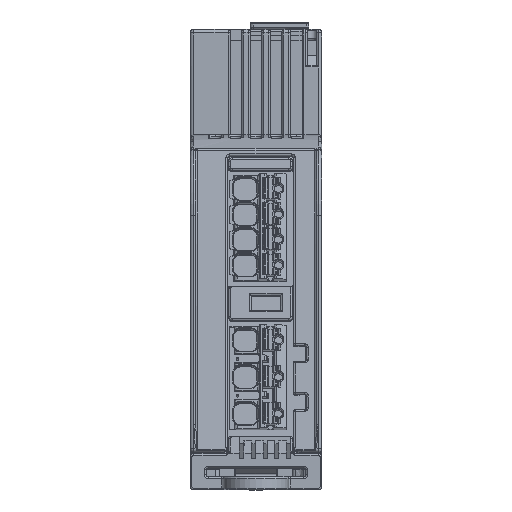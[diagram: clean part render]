
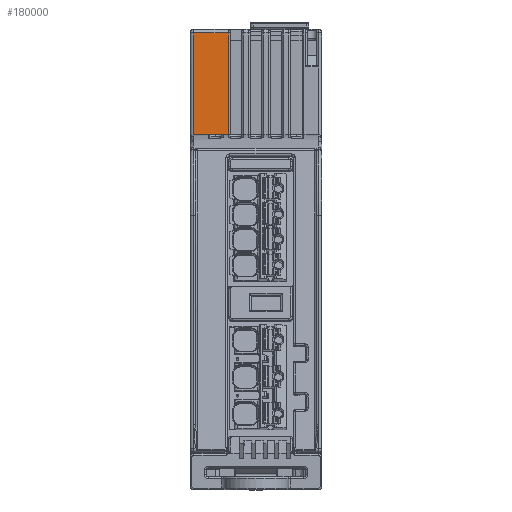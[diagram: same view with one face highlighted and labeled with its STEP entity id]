
A CAD part, front view. The second image highlights one B-rep face of the part: STEP entity #180000.
In plain terms, the highlighted planar face has unit normal (0, -1, 0).
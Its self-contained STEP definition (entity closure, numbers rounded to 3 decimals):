
#4462 = VERTEX_POINT ( 'NONE', #155411 ) ;
#7025 = DIRECTION ( 'NONE',  ( 0., 0., -1. ) ) ;
#13419 = VERTEX_POINT ( 'NONE', #179990 ) ;
#15142 = LINE ( 'NONE', #137054, #78471 ) ;
#17023 = ORIENTED_EDGE ( 'NONE', *, *, #96196, .T. ) ;
#17776 = LINE ( 'NONE', #32003, #30200 ) ;
#19928 = CARTESIAN_POINT ( 'NONE',  ( -18., -22.5, 48.5 ) ) ;
#22220 = CARTESIAN_POINT ( 'NONE',  ( -18., -22.5, 48.5 ) ) ;
#30200 = VECTOR ( 'NONE', #172144, 1000. ) ;
#31739 = CARTESIAN_POINT ( 'NONE',  ( -18., -22.5, 62.4 ) ) ;
#32003 = CARTESIAN_POINT ( 'NONE',  ( -17.5, -22.5, 48.5 ) ) ;
#37444 = PLANE ( 'NONE',  #123757 ) ;
#46994 = LINE ( 'NONE', #31739, #188373 ) ;
#49435 = LINE ( 'NONE', #19928, #172152 ) ;
#67965 = DIRECTION ( 'NONE',  ( 0., -1., 0. ) ) ;
#78471 = VECTOR ( 'NONE', #125792, 1000. ) ;
#81881 = DIRECTION ( 'NONE',  ( 1., 0., 0. ) ) ;
#83099 = EDGE_CURVE ( 'NONE', #4462, #108301, #46994, .T. ) ;
#86965 = ORIENTED_EDGE ( 'NONE', *, *, #101340, .T. ) ;
#93766 = DIRECTION ( 'NONE',  ( -1., 0., 0. ) ) ;
#95529 = ORIENTED_EDGE ( 'NONE', *, *, #194942, .T. ) ;
#96196 = EDGE_CURVE ( 'NONE', #135789, #13419, #49435, .T. ) ;
#101340 = EDGE_CURVE ( 'NONE', #108301, #135789, #17776, .T. ) ;
#102973 = ORIENTED_EDGE ( 'NONE', *, *, #83099, .T. ) ;
#108301 = VERTEX_POINT ( 'NONE', #148791 ) ;
#123757 = AXIS2_PLACEMENT_3D ( 'NONE', #22220, #67965, #7025 ) ;
#125792 = DIRECTION ( 'NONE',  ( 0., 0., 1. ) ) ;
#132798 = EDGE_LOOP ( 'NONE', ( #95529, #102973, #86965, #17023 ) ) ;
#135789 = VERTEX_POINT ( 'NONE', #184912 ) ;
#137054 = CARTESIAN_POINT ( 'NONE',  ( -12.8, -22.5, 48.5 ) ) ;
#148791 = CARTESIAN_POINT ( 'NONE',  ( -17.5, -22.5, 62.4 ) ) ;
#155411 = CARTESIAN_POINT ( 'NONE',  ( -12.8, -22.5, 62.4 ) ) ;
#161321 = FACE_OUTER_BOUND ( 'NONE', #132798, .T. ) ;
#172144 = DIRECTION ( 'NONE',  ( 0., 0., -1. ) ) ;
#172152 = VECTOR ( 'NONE', #81881, 1000. ) ;
#179990 = CARTESIAN_POINT ( 'NONE',  ( -12.8, -22.5, 48.5 ) ) ;
#180000 = ADVANCED_FACE ( 'NONE', ( #161321 ), #37444, .T. ) ;
#184912 = CARTESIAN_POINT ( 'NONE',  ( -17.5, -22.5, 48.5 ) ) ;
#188373 = VECTOR ( 'NONE', #93766, 1000. ) ;
#194942 = EDGE_CURVE ( 'NONE', #13419, #4462, #15142, .T. ) ;
